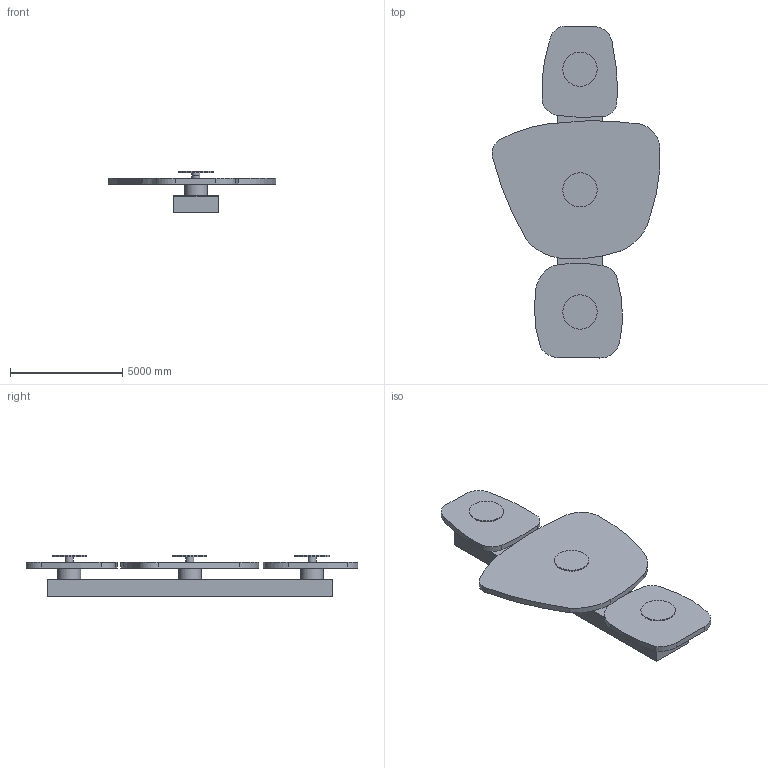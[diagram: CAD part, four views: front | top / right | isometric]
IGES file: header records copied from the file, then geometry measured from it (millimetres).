
Global section: file name: Timeless Alabaster Wall Lamp Collection Hub-N59; native system: AutoCAD 2022 - 简体中文 (Simplified Chinese),62HAuto; preprocessor: desk Translation Framework DWG producer (atf_dwg_producer); organization: unknown; date: 20260709.150557; units: inch
Bounding box: 7465.46 x 14769.83 x 1828.8 mm (x, y, z)
Volume: 19307459657 mm3; surface area: 260851572 mm2
Topology: 13 solids, 13 shells, 81 faces, 153 edges, 102 vertices
Faces by surface type: bspline 81
